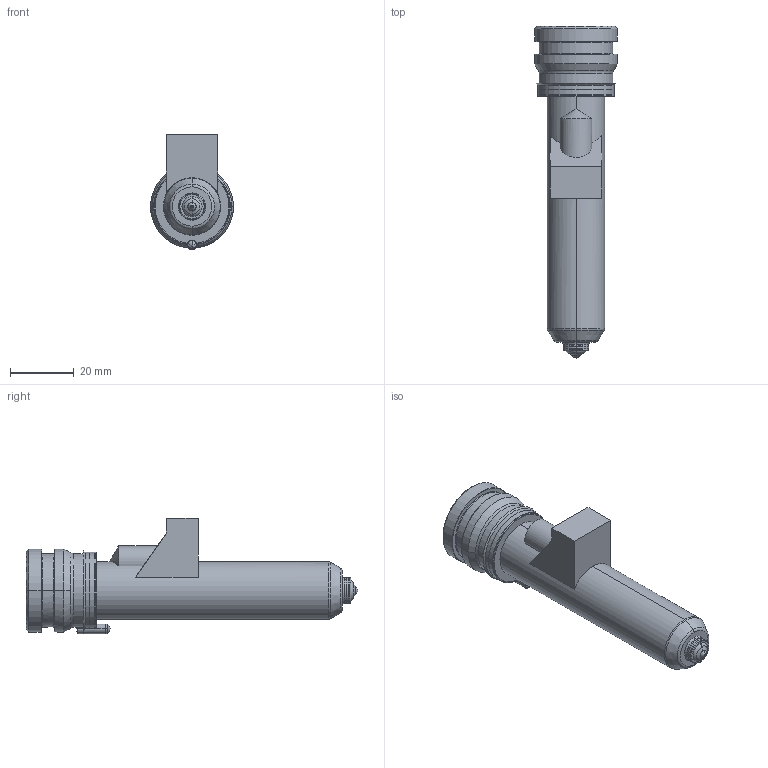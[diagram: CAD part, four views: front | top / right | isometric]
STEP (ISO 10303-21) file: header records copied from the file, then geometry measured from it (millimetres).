
FILE_DESCRIPTION((''),'2;1');
FILE_NAME('TH18086-M-1-PK-JG','2023-12-14T',('umhib'),('Thermoplay S.p.A.'),'PRO/ENGINEER BY PARAMETRIC TECHNOLOGY CORPORATION, 2017170','PRO/ENGINEER BY PARAMETRIC TECHNOLOGY CORPORATION, 2017170','');
FILE_SCHEMA(('CONFIG_CONTROL_DESIGN'));
Length unit declared in the file: millimetre
Products named in the file (1): TH18086-M-1-PK-JG
Bounding box: 26 x 104 x 36.1 mm (x, y, z)
Volume: 22454.7 mm3; surface area: 17297.1 mm2
Topology: 1 solids, 2 shells, 391 faces, 999 edges, 613 vertices
Faces by surface type: cylinder 149, plane 87, cone 62, torus 58, bspline 22, sphere 11, extrusion 2
Entity records: 16794 total; most frequent: CARTESIAN_POINT 5166, DIRECTION 2000, ORIENTED_EDGE 1972, EDGE_CURVE 988, AXIS2_PLACEMENT_3D 806, VERTEX_POINT 613, CIRCLE 438, EDGE_LOOP 414
